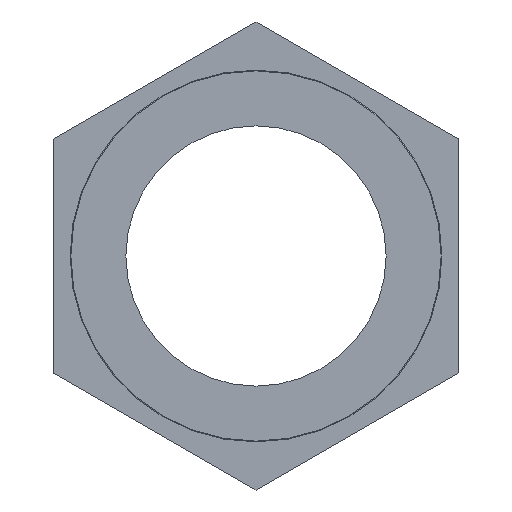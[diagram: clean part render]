
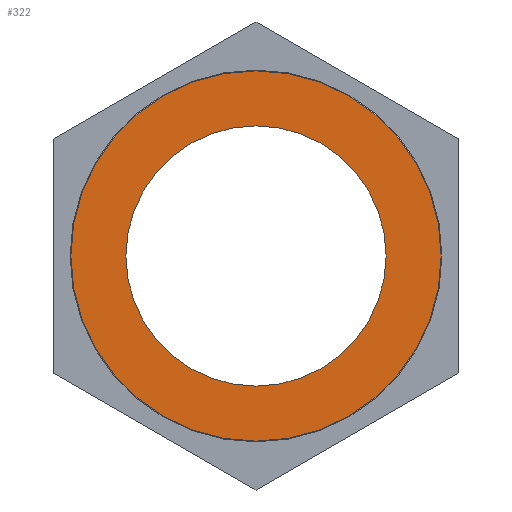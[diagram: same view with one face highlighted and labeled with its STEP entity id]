
A CAD part, left-side view. The second image highlights one B-rep face of the part: STEP entity #322.
In plain terms, the highlighted planar face has unit normal (-1, 0, 0).
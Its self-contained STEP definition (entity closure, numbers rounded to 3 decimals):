
#57=PLANE('',#352);
#77=FACE_BOUND('',#124,.T.);
#96=FACE_OUTER_BOUND('',#123,.T.);
#123=EDGE_LOOP('',(#251));
#124=EDGE_LOOP('',(#252));
#164=CIRCLE('',#349,29.687);
#166=CIRCLE('',#353,20.865);
#182=VERTEX_POINT('',#500);
#184=VERTEX_POINT('',#506);
#212=EDGE_CURVE('',#182,#182,#164,.T.);
#214=EDGE_CURVE('',#184,#184,#166,.T.);
#251=ORIENTED_EDGE('',*,*,#212,.F.);
#252=ORIENTED_EDGE('',*,*,#214,.F.);
#322=ADVANCED_FACE('',(#96,#77),#57,.T.);
#349=AXIS2_PLACEMENT_3D('',#501,#396,#397);
#352=AXIS2_PLACEMENT_3D('',#505,#402,#403);
#353=AXIS2_PLACEMENT_3D('',#507,#404,#405);
#396=DIRECTION('center_axis',(1.,0.,0.));
#397=DIRECTION('ref_axis',(0.,1.,0.));
#402=DIRECTION('center_axis',(-1.,0.,0.));
#403=DIRECTION('ref_axis',(0.,0.,1.));
#404=DIRECTION('center_axis',(-1.,0.,0.));
#405=DIRECTION('ref_axis',(0.,0.,1.));
#500=CARTESIAN_POINT('',(0.,-29.687,0.));
#501=CARTESIAN_POINT('Origin',(0.,0.,0.));
#505=CARTESIAN_POINT('Origin',(0.,-20.865,0.));
#506=CARTESIAN_POINT('',(0.,-20.865,0.));
#507=CARTESIAN_POINT('Origin',(0.,0.,0.));
